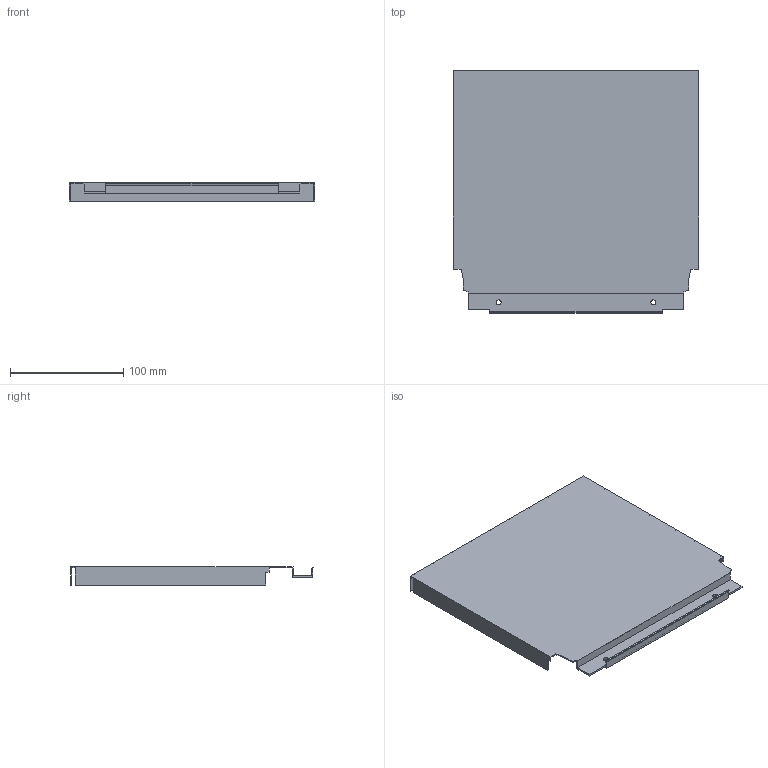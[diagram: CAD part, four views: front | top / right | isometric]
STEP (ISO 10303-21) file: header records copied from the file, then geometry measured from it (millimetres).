
FILE_DESCRIPTION (( 'STEP AP214' ), '1' );
FILE_NAME ('_DWD_XP Stahlrückwand_H214_KAB300_S16.step', '2010-07-08T13:02:45', ( 'grass' ), ( '' ), 'SwSTEP 2.0', 'SolidWorks 2010', '' );
FILE_SCHEMA (( 'AUTOMOTIVE_DESIGN' ));
Length unit declared in the file: millimetre
Products named in the file (1): _DWD_XP Stahlrückwand_H214_KAB300_S16
Bounding box: 217 x 214.58 x 16 mm (x, y, z)
Volume: 53461.7 mm3; surface area: 114075.6 mm2
Topology: 1 solids, 1 shells, 44 faces, 126 edges, 84 vertices
Faces by surface type: plane 40, cylinder 4
Entity records: 1460 total; most frequent: CARTESIAN_POINT 255, ORIENTED_EDGE 252, DIRECTION 224, EDGE_CURVE 126, LINE 118, VECTOR 118, VERTEX_POINT 84, AXIS2_PLACEMENT_3D 53
